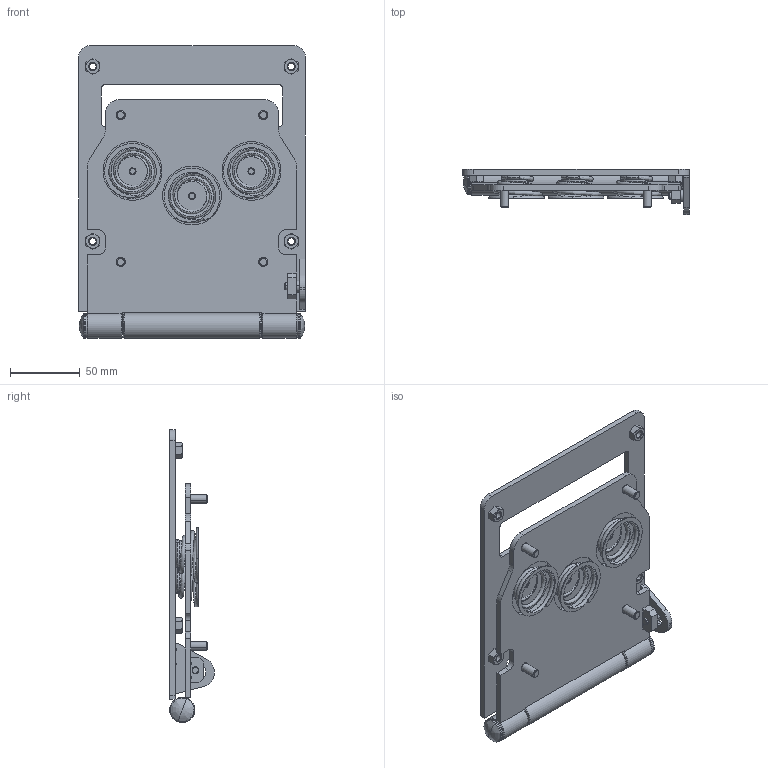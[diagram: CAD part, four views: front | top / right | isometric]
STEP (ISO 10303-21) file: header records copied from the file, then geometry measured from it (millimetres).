
FILE_DESCRIPTION (( 'STEP AP203' ), '1' );
FILE_NAME ('A_201734.STEP', '2016-04-15T09:35:51', ( '' ), ( '' ), 'SwSTEP 2.0', 'SolidWorks 2014', '' );
FILE_SCHEMA (( 'CONFIG_CONTROL_DESIGN' ));
Length unit declared in the file: millimetre
Products named in the file (1): A_201734
Bounding box: 162 x 32 x 209.48 mm (x, y, z)
Volume: 229246 mm3; surface area: 137281.8 mm2
Topology: 32 solids, 32 shells, 693 faces, 1631 edges, 998 vertices
Faces by surface type: plane 259, cylinder 206, cone 150, bspline 46, torus 32
Entity records: 26682 total; most frequent: CARTESIAN_POINT 10754, DIRECTION 3383, ORIENTED_EDGE 3230, EDGE_CURVE 1615, AXIS2_PLACEMENT_3D 1323, VERTEX_POINT 998, EDGE_LOOP 777, LINE 737
